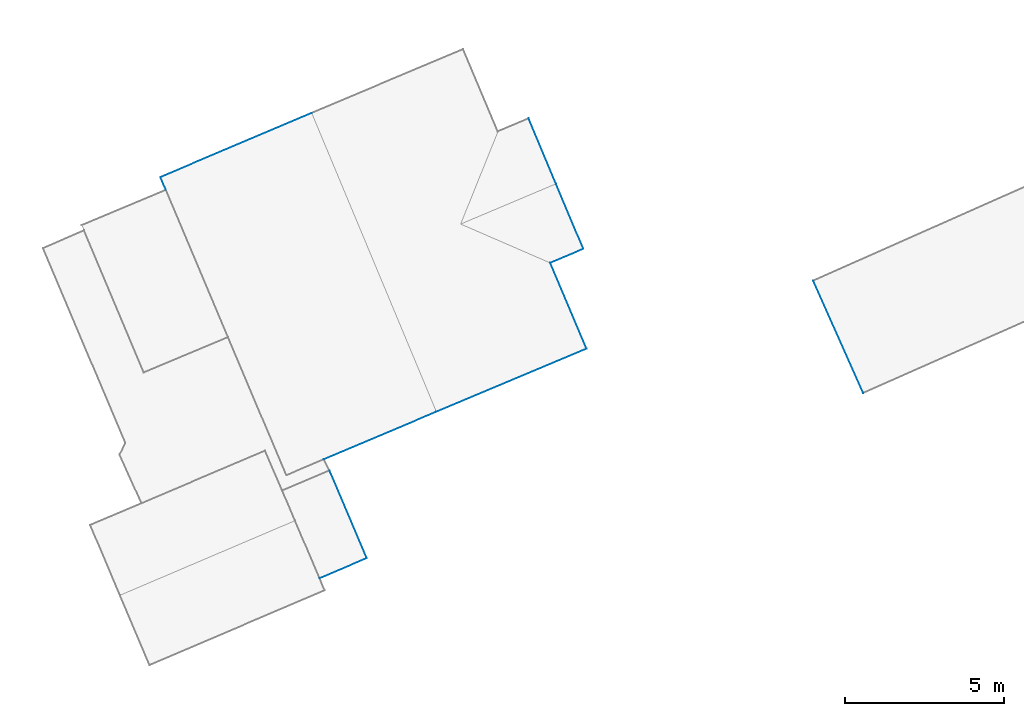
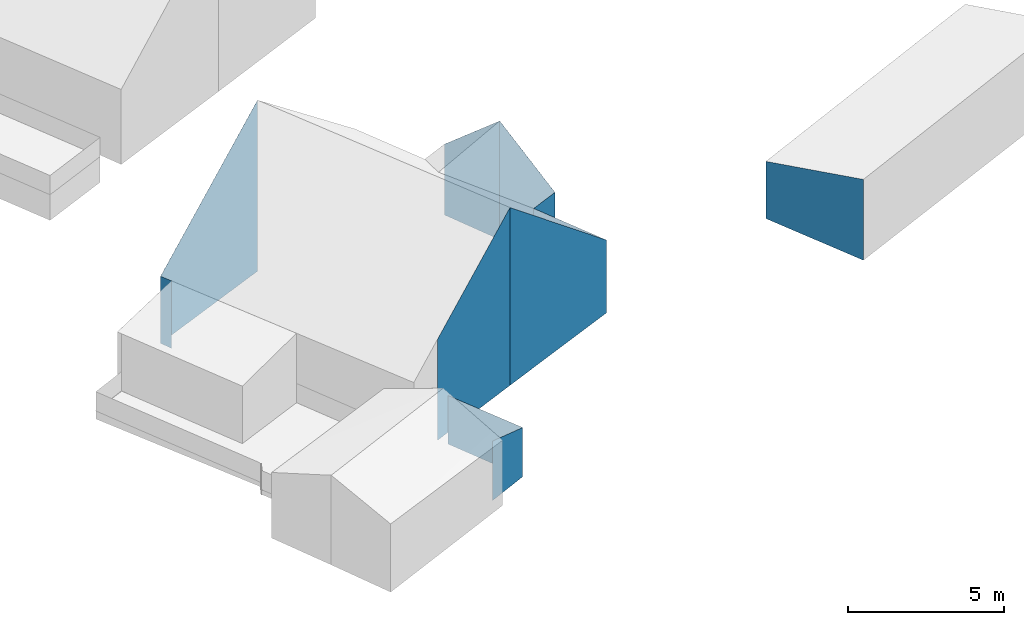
# Not in any storey, part 32 of 59: 11 walls.
"""IFC4 building model written with IfcOpenShell, lengths in metres."""

from ifc_helpers import new_model, entity, si_unit, converted_unit, origin, place, context, subcontext, project, spatial, face_set, surface_model, element, save


model = new_model("IFC4")

# Units and contexts
model_context = context("Model", 3, precision=1e-05, world=origin())
body_context = subcontext(model_context, "Body", "Model", "MODEL_VIEW")
ifc_project = project(units=[converted_unit("PLANEANGLEUNIT", "DEGREE", entity("IfcRatioMeasure", 0.0174532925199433), si_unit("PLANEANGLEUNIT", "RADIAN"), dimensions=[0, 0, 0, 0, 0, 0, 0]), si_unit("AREAUNIT", "SQUARE_METRE"), si_unit("LENGTHUNIT", "METRE")], contexts=[model_context])

# Site, building
site_placement = place(None, origin())
site = spatial("IfcSite", under=ifc_project, at=site_placement, Name="_site")
building_1_placement = place(site_placement, origin())
building_1 = spatial("IfcBuilding", under=site, at=building_1_placement, Name="_building")

# Walls
wall_1_placement = place(building_1_placement, origin())
element("IfcWall", 1, at=wall_1_placement, inside=building_1, Name="Wall", PredefinedType="NOTDEFINED", context=body_context, shape_type="SurfaceModel", body=[
    surface_model("IfcFaceBasedSurfaceModel", [(207.87, 188.391, 218.3), (206.39, 187.76, 218.67), (206.39, 187.76, 216.346), (207.87, 188.391, 216.38)], [face_set([[[0, 1, 2, 3]]])]),
])
wall_2_placement = place(building_1_placement, origin())
element("IfcWall", 2, at=wall_2_placement, inside=building_1, Name="Wall", PredefinedType="NOTDEFINED", context=body_context, shape_type="SurfaceModel", body=[
    surface_model("IfcFaceBasedSurfaceModel", [(206.7, 191.141, 218.29), (207.87, 188.391, 218.3), (207.87, 188.391, 216.38), (206.7, 191.141, 216.396)], [face_set([[[0, 1, 2, 3]]])]),
])

# Building
building_2_placement = place(site_placement, origin())
building_2 = spatial("IfcBuilding", under=site, at=building_2_placement, Name="_building")

# Walls
wall_3_placement = place(building_2_placement, origin())
element("IfcWall", 3, at=wall_3_placement, inside=building_2, Name="Wall", PredefinedType="NOTDEFINED", context=body_context, shape_type="SurfaceModel", body=[
    surface_model("IfcFaceBasedSurfaceModel", [(201.4, 200.34, 219.22), (206.14, 202.35, 223.22), (206.14, 202.35, 216.542), (201.4, 200.34, 216.604)], [face_set([[[0, 1, 2, 3]]])]),
])
wall_4_placement = place(building_2_placement, origin())
element("IfcWall", 4, at=wall_4_placement, inside=building_2, Name="Wall", PredefinedType="NOTDEFINED", context=body_context, shape_type="SurfaceModel", body=[
    surface_model("IfcFaceBasedSurfaceModel", [(210.05, 192.98, 223.34), (206.521, 191.488, 220.352), (206.521, 191.488, 216.399), (210.05, 192.98, 216.399)], [face_set([[[0, 1, 2, 3]]])]),
])
wall_5_placement = place(building_2_placement, origin())
element("IfcWall", 5, at=wall_5_placement, inside=building_2, Name="Wall", PredefinedType="NOTDEFINED", context=body_context, shape_type="SurfaceModel", body=[
    surface_model("IfcFaceBasedSurfaceModel", [(214.76, 194.961, 219.22), (210.05, 192.98, 223.34), (210.05, 192.98, 216.399), (214.76, 194.961, 216.382)], [face_set([[[0, 1, 2, 3]]])]),
])
wall_6_placement = place(building_2_placement, origin())
element("IfcWall", 6, at=wall_6_placement, inside=building_2, Name="Wall", PredefinedType="NOTDEFINED", context=body_context, shape_type="SurfaceModel", body=[
    surface_model("IfcFaceBasedSurfaceModel", [(212.94, 202.18, 219.22), (213.8, 200.131, 221.07), (213.8, 200.131, 216.436), (212.94, 202.18, 216.461)], [face_set([[[0, 1, 2, 3]]])]),
])
wall_7_placement = place(building_2_placement, origin())
element("IfcWall", 7, at=wall_7_placement, inside=building_2, Name="Wall", PredefinedType="NOTDEFINED", context=body_context, shape_type="SurfaceModel", body=[
    surface_model("IfcFaceBasedSurfaceModel", [(213.8, 200.131, 221.07), (214.66, 198.09, 219.22), (214.66, 198.09, 216.411), (213.8, 200.131, 216.436)], [face_set([[[0, 1, 2, 3]]])]),
])
wall_8_placement = place(building_2_placement, origin())
element("IfcWall", 8, at=wall_8_placement, inside=building_2, Name="Wall", PredefinedType="NOTDEFINED", context=body_context, shape_type="SurfaceModel", body=[
    surface_model("IfcFaceBasedSurfaceModel", [(201.57, 199.939, 219.23), (201.4, 200.34, 219.22), (201.4, 200.34, 216.604), (201.57, 199.939, 216.592)], [face_set([[[0, 1, 2, 3]]])]),
])
wall_9_placement = place(building_2_placement, origin())
element("IfcWall", 9, at=wall_9_placement, inside=building_2, Name="Wall", PredefinedType="NOTDEFINED", context=body_context, shape_type="SurfaceModel", body=[
    surface_model("IfcFaceBasedSurfaceModel", [(214.66, 198.09, 219.22), (213.62, 197.65, 219.22), (213.62, 197.65, 216.415), (214.66, 198.09, 216.411)], [face_set([[[0, 1, 2, 3]]])]),
])
wall_10_placement = place(building_2_placement, origin())
element("IfcWall", 10, at=wall_10_placement, inside=building_2, Name="Wall", PredefinedType="NOTDEFINED", context=body_context, shape_type="SurfaceModel", body=[
    surface_model("IfcFaceBasedSurfaceModel", [(213.62, 197.65, 219.22), (214.76, 194.961, 219.22), (214.76, 194.961, 216.382), (213.62, 197.65, 216.415)], [face_set([[[0, 1, 2, 3]]])]),
])

# Building
building_3_placement = place(site_placement, origin())
building_3 = spatial("IfcBuilding", under=site, at=building_3_placement, Name="_building")

# Wall
wall_11_placement = place(building_3_placement, origin())
element("IfcWall", 11, at=wall_11_placement, inside=building_3, Name="Wall", PredefinedType="NOTDEFINED", context=body_context, shape_type="SurfaceModel", body=[
    surface_model("IfcFaceBasedSurfaceModel", [(223.44, 193.57, 219.39), (221.87, 197.09, 218.51), (221.87, 197.09, 216.28), (223.44, 193.57, 216.235)], [face_set([[[0, 1, 2, 3]]])]),
])

save(model, "model.ifc")
